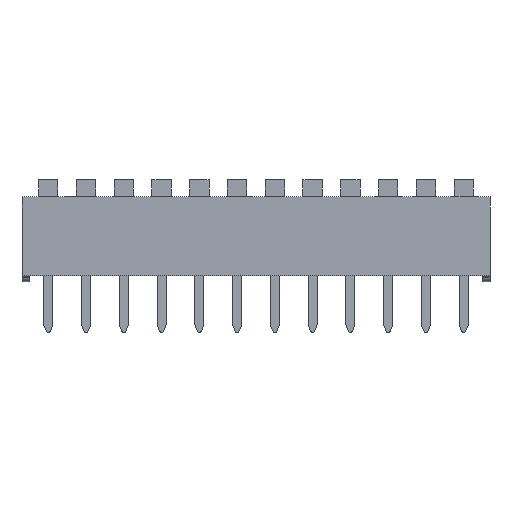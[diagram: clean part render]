
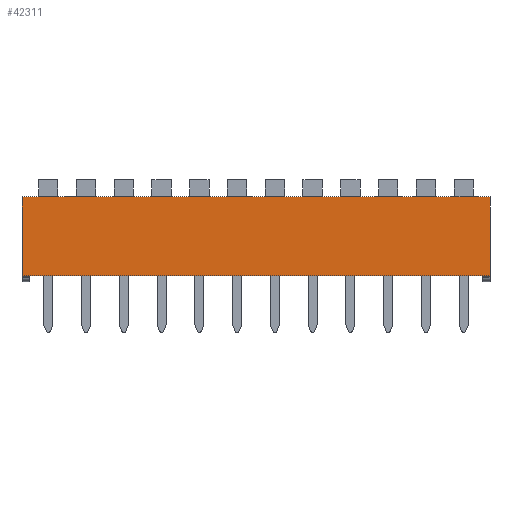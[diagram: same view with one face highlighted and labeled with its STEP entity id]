
A CAD part, front view. The second image highlights one B-rep face of the part: STEP entity #42311.
In plain terms, the highlighted planar face has unit normal (0, -1, 0).
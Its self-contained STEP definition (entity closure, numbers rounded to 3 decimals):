
#19914 = PLANE('',#19915);
#19915 = AXIS2_PLACEMENT_3D('',#19916,#19917,#19918);
#19916 = CARTESIAN_POINT('',(-1.77,8.76,0.4));
#19917 = DIRECTION('',(-1.,0.,0.));
#19918 = DIRECTION('',(0.,-1.,0.));
#20061 = VERTEX_POINT('',#20062);
#20062 = CARTESIAN_POINT('',(-1.77,-1.14,0.4));
#20076 = PLANE('',#20077);
#20077 = AXIS2_PLACEMENT_3D('',#20078,#20079,#20080);
#20078 = CARTESIAN_POINT('',(13.97,3.81,0.4));
#20079 = DIRECTION('',(0.,0.,1.));
#20080 = DIRECTION('',(1.,0.,0.));
#20088 = EDGE_CURVE('',#20061,#20089,#20091,.T.);
#20089 = VERTEX_POINT('',#20090);
#20090 = CARTESIAN_POINT('',(-1.77,-1.14,5.7));
#20091 = SURFACE_CURVE('',#20092,(#20096,#20103),.PCURVE_S1.);
#20092 = LINE('',#20093,#20094);
#20093 = CARTESIAN_POINT('',(-1.77,-1.14,0.4));
#20094 = VECTOR('',#20095,1.);
#20095 = DIRECTION('',(0.,0.,1.));
#20096 = PCURVE('',#19914,#20097);
#20097 = DEFINITIONAL_REPRESENTATION('',(#20098),#20102);
#20098 = LINE('',#20099,#20100);
#20099 = CARTESIAN_POINT('',(9.9,0.));
#20100 = VECTOR('',#20101,1.);
#20101 = DIRECTION('',(0.,1.));
#20102 = ( GEOMETRIC_REPRESENTATION_CONTEXT(2) 
PARAMETRIC_REPRESENTATION_CONTEXT() REPRESENTATION_CONTEXT('2D SPACE',''
  ) );
#20103 = PCURVE('',#20104,#20109);
#20104 = PLANE('',#20105);
#20105 = AXIS2_PLACEMENT_3D('',#20106,#20107,#20108);
#20106 = CARTESIAN_POINT('',(-1.77,-1.14,0.4));
#20107 = DIRECTION('',(0.,-1.,0.));
#20108 = DIRECTION('',(1.,0.,0.));
#20109 = DEFINITIONAL_REPRESENTATION('',(#20110),#20114);
#20110 = LINE('',#20111,#20112);
#20111 = CARTESIAN_POINT('',(0.,0.));
#20112 = VECTOR('',#20113,1.);
#20113 = DIRECTION('',(0.,1.));
#20114 = ( GEOMETRIC_REPRESENTATION_CONTEXT(2) 
PARAMETRIC_REPRESENTATION_CONTEXT() REPRESENTATION_CONTEXT('2D SPACE',''
  ) );
#20132 = PLANE('',#20133);
#20133 = AXIS2_PLACEMENT_3D('',#20134,#20135,#20136);
#20134 = CARTESIAN_POINT('',(13.97,3.81,5.7));
#20135 = DIRECTION('',(0.,0.,1.));
#20136 = DIRECTION('',(1.,0.,0.));
#21467 = EDGE_CURVE('',#20089,#21468,#21470,.T.);
#21468 = VERTEX_POINT('',#21469);
#21469 = CARTESIAN_POINT('',(29.71,-1.14,5.7));
#21470 = SURFACE_CURVE('',#21471,(#21475,#21482),.PCURVE_S1.);
#21471 = LINE('',#21472,#21473);
#21472 = CARTESIAN_POINT('',(29.71,-1.14,5.7));
#21473 = VECTOR('',#21474,1.);
#21474 = DIRECTION('',(1.,0.,0.));
#21475 = PCURVE('',#20132,#21476);
#21476 = DEFINITIONAL_REPRESENTATION('',(#21477),#21481);
#21477 = LINE('',#21478,#21479);
#21478 = CARTESIAN_POINT('',(15.74,-4.95));
#21479 = VECTOR('',#21480,1.);
#21480 = DIRECTION('',(1.,0.));
#21481 = ( GEOMETRIC_REPRESENTATION_CONTEXT(2) 
PARAMETRIC_REPRESENTATION_CONTEXT() REPRESENTATION_CONTEXT('2D SPACE',''
  ) );
#21482 = PCURVE('',#20104,#21483);
#21483 = DEFINITIONAL_REPRESENTATION('',(#21484),#21488);
#21484 = LINE('',#21485,#21486);
#21485 = CARTESIAN_POINT('',(31.48,5.3));
#21486 = VECTOR('',#21487,1.);
#21487 = DIRECTION('',(1.,0.));
#21488 = ( GEOMETRIC_REPRESENTATION_CONTEXT(2) 
PARAMETRIC_REPRESENTATION_CONTEXT() REPRESENTATION_CONTEXT('2D SPACE',''
  ) );
#21506 = PLANE('',#21507);
#21507 = AXIS2_PLACEMENT_3D('',#21508,#21509,#21510);
#21508 = CARTESIAN_POINT('',(29.71,-1.14,0.4));
#21509 = DIRECTION('',(1.,0.,0.));
#21510 = DIRECTION('',(0.,1.,0.));
#38007 = VERTEX_POINT('',#38008);
#38008 = CARTESIAN_POINT('',(29.71,-1.14,0.4));
#38029 = EDGE_CURVE('',#38007,#20061,#38030,.T.);
#38030 = SURFACE_CURVE('',#38031,(#38035,#38042),.PCURVE_S1.);
#38031 = LINE('',#38032,#38033);
#38032 = CARTESIAN_POINT('',(29.71,-1.14,0.4));
#38033 = VECTOR('',#38034,1.);
#38034 = DIRECTION('',(-1.,0.,0.));
#38035 = PCURVE('',#20076,#38036);
#38036 = DEFINITIONAL_REPRESENTATION('',(#38037),#38041);
#38037 = LINE('',#38038,#38039);
#38038 = CARTESIAN_POINT('',(15.74,-4.95));
#38039 = VECTOR('',#38040,1.);
#38040 = DIRECTION('',(-1.,0.));
#38041 = ( GEOMETRIC_REPRESENTATION_CONTEXT(2) 
PARAMETRIC_REPRESENTATION_CONTEXT() REPRESENTATION_CONTEXT('2D SPACE',''
  ) );
#38042 = PCURVE('',#20104,#38043);
#38043 = DEFINITIONAL_REPRESENTATION('',(#38044),#38048);
#38044 = LINE('',#38045,#38046);
#38045 = CARTESIAN_POINT('',(31.48,0.));
#38046 = VECTOR('',#38047,1.);
#38047 = DIRECTION('',(-1.,0.));
#38048 = ( GEOMETRIC_REPRESENTATION_CONTEXT(2) 
PARAMETRIC_REPRESENTATION_CONTEXT() REPRESENTATION_CONTEXT('2D SPACE',''
  ) );
#42277 = EDGE_CURVE('',#38007,#21468,#42278,.T.);
#42278 = SURFACE_CURVE('',#42279,(#42283,#42290),.PCURVE_S1.);
#42279 = LINE('',#42280,#42281);
#42280 = CARTESIAN_POINT('',(29.71,-1.14,0.4));
#42281 = VECTOR('',#42282,1.);
#42282 = DIRECTION('',(0.,0.,1.));
#42283 = PCURVE('',#21506,#42284);
#42284 = DEFINITIONAL_REPRESENTATION('',(#42285),#42289);
#42285 = LINE('',#42286,#42287);
#42286 = CARTESIAN_POINT('',(0.,0.));
#42287 = VECTOR('',#42288,1.);
#42288 = DIRECTION('',(0.,1.));
#42289 = ( GEOMETRIC_REPRESENTATION_CONTEXT(2) 
PARAMETRIC_REPRESENTATION_CONTEXT() REPRESENTATION_CONTEXT('2D SPACE',''
  ) );
#42290 = PCURVE('',#20104,#42291);
#42291 = DEFINITIONAL_REPRESENTATION('',(#42292),#42296);
#42292 = LINE('',#42293,#42294);
#42293 = CARTESIAN_POINT('',(31.48,0.));
#42294 = VECTOR('',#42295,1.);
#42295 = DIRECTION('',(0.,1.));
#42296 = ( GEOMETRIC_REPRESENTATION_CONTEXT(2) 
PARAMETRIC_REPRESENTATION_CONTEXT() REPRESENTATION_CONTEXT('2D SPACE',''
  ) );
#42311 = ADVANCED_FACE('',(#42312),#20104,.T.);
#42312 = FACE_BOUND('',#42313,.T.);
#42313 = EDGE_LOOP('',(#42314,#42315,#42316,#42317));
#42314 = ORIENTED_EDGE('',*,*,#38029,.F.);
#42315 = ORIENTED_EDGE('',*,*,#42277,.T.);
#42316 = ORIENTED_EDGE('',*,*,#21467,.F.);
#42317 = ORIENTED_EDGE('',*,*,#20088,.F.);
